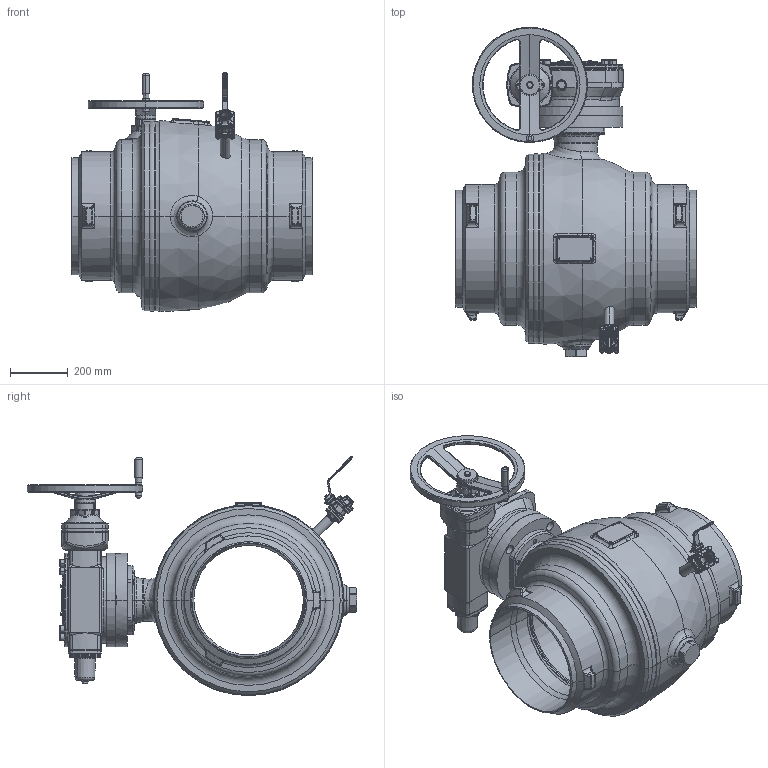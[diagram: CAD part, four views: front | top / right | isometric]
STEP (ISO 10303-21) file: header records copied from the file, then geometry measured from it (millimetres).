
FILE_DESCRIPTION((''),'2;1');
FILE_NAME('ASM0001_ASM','2026-01-28T10:56:27',('schwaba'),('KLINGER'),'CREO PARAMETRIC BY PTC INC, 2023014','CREO PARAMETRIC BY PTC INC, 2023014','');
FILE_SCHEMA(('CONFIG_CONTROL_DESIGN'));
Length unit declared in the file: millimetre
Products named in the file (3): KHSVI_400_FR_WE_ENTL; GS160_F25_AHR400_DN400; ASM0001_ASM
Assembly tree (2 placements, depth 2):
  ASM0001_ASM
    KHSVI_400_FR_WE_ENTL
    GS160_F25_AHR400_DN400
Bounding box: 838 x 1143 x 830.97 mm (x, y, z)
Volume: 89252544 mm3; surface area: 7191629.9 mm2
Topology: 3 solids, 7 shells, 4462 faces, 10448 edges, 6150 vertices
Faces by surface type: plane 1229, cylinder 1130, torus 785, bspline 642, cone 599, sphere 56, revolution 16, extrusion 5
Entity records: 248262 total; most frequent: CARTESIAN_POINT 150983, ORIENTED_EDGE 20764, DIRECTION 20027, EDGE_CURVE 10382, AXIS2_PLACEMENT_3D 8483, VERTEX_POINT 6150, EDGE_LOOP 4762, CIRCLE 4676
